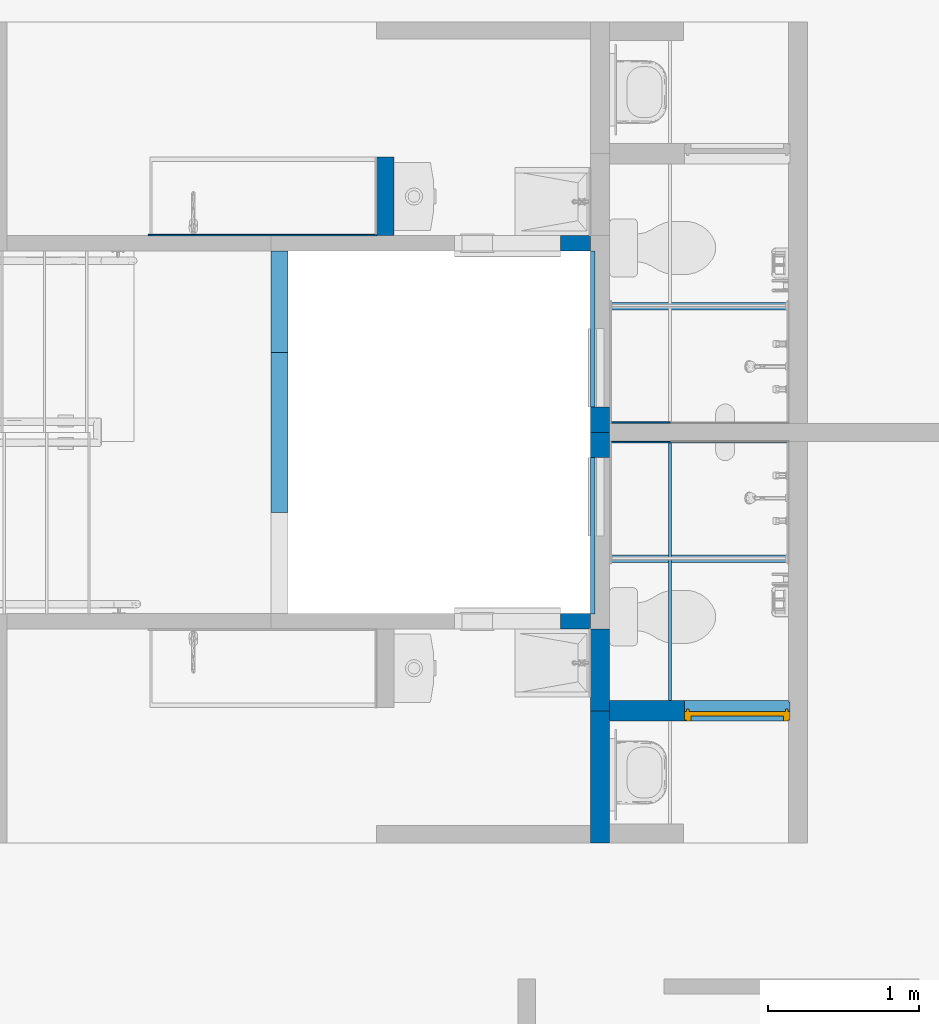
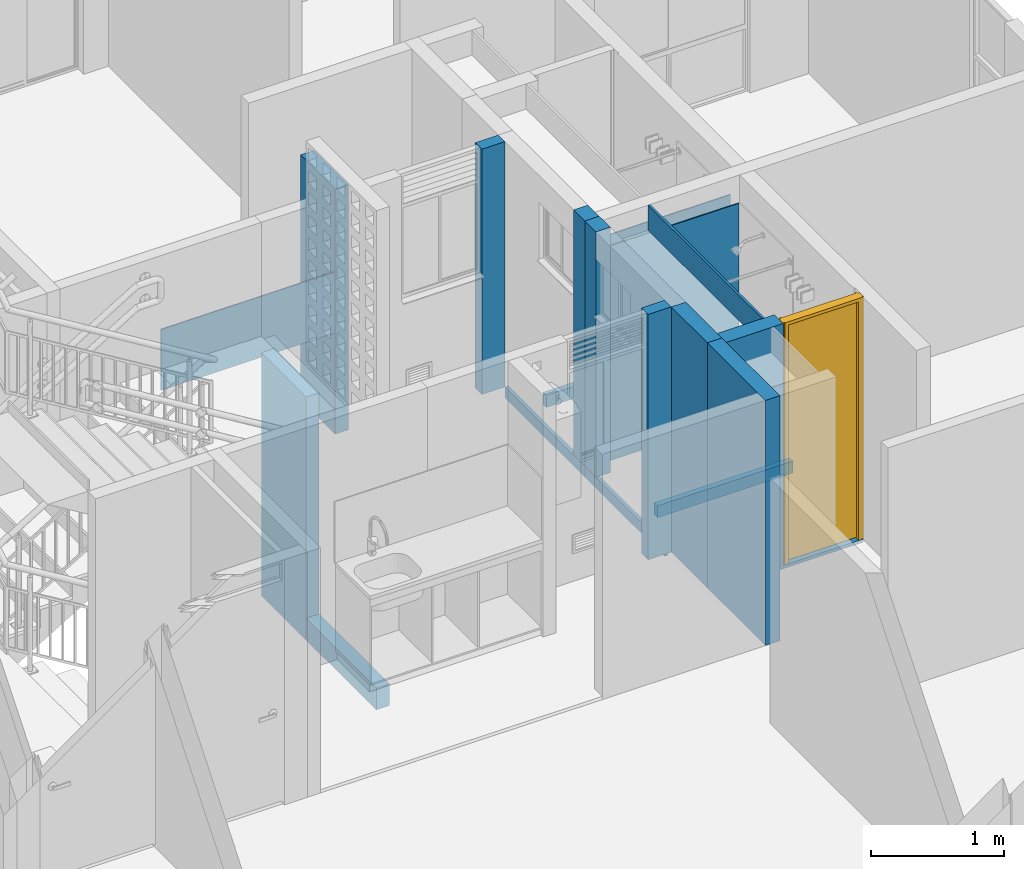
# One storey, part 16 of 51: 18 walls, 1 door, 1 opening.
"""IFC4 building model written with IfcOpenShell, lengths in metres."""

from ifc_helpers import new_model, entity, si_unit, converted_unit, derived_unit, direction, frame, origin, place, context, subcontext, project, spatial, indexed_curve, outline, extrude, polygons, source, transform, mapped, material, constituent, constituent_set, type_object, type_shapes, element, fill, save


model = new_model("IFC4")

# Units and contexts
model_context = context("Model", 3, precision=1e-05, world=origin(), true_north=direction((6.123031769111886e-17, 1.0)))
body_context = subcontext(model_context, "Body", "Model", "MODEL_VIEW")
ifc_project = project(units=[si_unit("LENGTHUNIT", "METRE"), si_unit("AREAUNIT", "SQUARE_METRE"), si_unit("VOLUMEUNIT", "CUBIC_METRE"), converted_unit("PLANEANGLEUNIT", "DEGREE", entity("IfcRatioMeasure", 0.017453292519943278), si_unit("PLANEANGLEUNIT", "RADIAN"), dimensions=[0, 0, 0, 0, 0, 0, 0]), si_unit("MASSUNIT", "GRAM", prefix="KILO"), derived_unit("MASSDENSITYUNIT", [(si_unit("MASSUNIT", "GRAM", prefix="KILO"), 1), (si_unit("LENGTHUNIT", "METRE"), -3)]), derived_unit("IONCONCENTRATIONUNIT", [(si_unit("MASSUNIT", "GRAM", prefix="KILO"), 1), (si_unit("LENGTHUNIT", "METRE"), -3)]), derived_unit("MOMENTOFINERTIAUNIT", [(si_unit("LENGTHUNIT", "METRE"), 4)]), si_unit("TIMEUNIT", "SECOND"), si_unit("FREQUENCYUNIT", "HERTZ"), si_unit("THERMODYNAMICTEMPERATUREUNIT", "DEGREE_CELSIUS"), derived_unit("THERMALTRANSMITTANCEUNIT", [(si_unit("MASSUNIT", "GRAM", prefix="KILO"), 1), (si_unit("THERMODYNAMICTEMPERATUREUNIT", "KELVIN"), -1), (si_unit("TIMEUNIT", "SECOND"), -3)]), derived_unit("THERMALCONDUCTANCEUNIT", [(si_unit("MASSUNIT", "GRAM", prefix="KILO"), 1), (si_unit("THERMODYNAMICTEMPERATUREUNIT", "KELVIN"), -1), (si_unit("TIMEUNIT", "SECOND"), -3), (si_unit("LENGTHUNIT", "METRE"), 1)]), derived_unit("VOLUMETRICFLOWRATEUNIT", [(si_unit("LENGTHUNIT", "METRE"), 3), (si_unit("TIMEUNIT", "SECOND"), -1)]), derived_unit("MASSFLOWRATEUNIT", [(si_unit("MASSUNIT", "GRAM", prefix="KILO"), 1), (si_unit("TIMEUNIT", "SECOND"), -1)]), derived_unit("ROTATIONALFREQUENCYUNIT", [(si_unit("TIMEUNIT", "SECOND"), -1)]), si_unit("ELECTRICCURRENTUNIT", "AMPERE"), si_unit("ELECTRICVOLTAGEUNIT", "VOLT"), si_unit("POWERUNIT", "WATT"), si_unit("FORCEUNIT", "NEWTON", prefix="KILO"), si_unit("ILLUMINANCEUNIT", "LUX"), si_unit("LUMINOUSFLUXUNIT", "LUMEN"), si_unit("LUMINOUSINTENSITYUNIT", "CANDELA"), derived_unit("USERDEFINED", [(si_unit("MASSUNIT", "GRAM", prefix="KILO"), -1), (si_unit("LENGTHUNIT", "METRE"), -2), (si_unit("TIMEUNIT", "SECOND"), 3), (si_unit("LUMINOUSFLUXUNIT", "LUMEN"), 1)]), derived_unit("USERDEFINED", [(si_unit("MASSUNIT", "GRAM", prefix="KILO"), 1), (si_unit("TIMEUNIT", "SECOND"), -3), (si_unit("LENGTHUNIT", "METRE"), 3), (si_unit("ELECTRICCURRENTUNIT", "AMPERE"), -2)]), derived_unit("SOUNDPOWERUNIT", [(si_unit("MASSUNIT", "GRAM", prefix="KILO"), 1), (si_unit("TIMEUNIT", "SECOND"), -3), (si_unit("LENGTHUNIT", "METRE"), 2)]), derived_unit("SOUNDPRESSUREUNIT", [(si_unit("MASSUNIT", "GRAM", prefix="KILO"), 1), (si_unit("LENGTHUNIT", "METRE"), -1), (si_unit("TIMEUNIT", "SECOND"), -2)]), derived_unit("LINEARVELOCITYUNIT", [(si_unit("LENGTHUNIT", "METRE"), 1), (si_unit("TIMEUNIT", "SECOND"), -1)]), si_unit("PRESSUREUNIT", "PASCAL"), derived_unit("USERDEFINED", [(si_unit("MASSUNIT", "GRAM", prefix="KILO"), 1), (si_unit("LENGTHUNIT", "METRE"), -2), (si_unit("TIMEUNIT", "SECOND"), -2)]), derived_unit("LINEARFORCEUNIT", [(si_unit("MASSUNIT", "GRAM", prefix="KILO"), 1), (si_unit("TIMEUNIT", "SECOND"), -2)]), derived_unit("PLANARFORCEUNIT", [(si_unit("MASSUNIT", "GRAM", prefix="KILO"), 1), (si_unit("LENGTHUNIT", "METRE"), -1), (si_unit("TIMEUNIT", "SECOND"), -2)]), derived_unit("SPECIFICHEATCAPACITYUNIT", [(si_unit("THERMODYNAMICTEMPERATUREUNIT", "KELVIN"), -1), (si_unit("LENGTHUNIT", "METRE"), 2), (si_unit("TIMEUNIT", "SECOND"), -2)]), derived_unit("HEATINGVALUEUNIT", [(si_unit("LENGTHUNIT", "METRE"), 2), (si_unit("TIMEUNIT", "SECOND"), -2)]), derived_unit("VAPORPERMEABILITYUNIT", [(si_unit("LENGTHUNIT", "METRE"), -1), (si_unit("TIMEUNIT", "SECOND"), 1)]), derived_unit("DYNAMICVISCOSITYUNIT", [(si_unit("MASSUNIT", "GRAM", prefix="KILO"), 1), (si_unit("TIMEUNIT", "SECOND"), -1), (si_unit("LENGTHUNIT", "METRE"), -1)]), derived_unit("THERMALEXPANSIONCOEFFICIENTUNIT", [(si_unit("THERMODYNAMICTEMPERATUREUNIT", "KELVIN"), -1)]), derived_unit("MODULUSOFELASTICITYUNIT", [(si_unit("MASSUNIT", "GRAM", prefix="KILO"), 1), (si_unit("LENGTHUNIT", "METRE"), -1), (si_unit("TIMEUNIT", "SECOND"), -2)]), derived_unit("ISOTHERMALMOISTURECAPACITYUNIT", [(si_unit("LENGTHUNIT", "METRE"), 3), (si_unit("MASSUNIT", "GRAM", prefix="KILO"), -1)]), derived_unit("MOISTUREDIFFUSIVITYUNIT", [(si_unit("TIMEUNIT", "SECOND"), -1), (si_unit("LENGTHUNIT", "METRE"), 2)])], contexts=[model_context])

# Site, building, storey
site_placement = place(None, origin())
site = spatial("IfcSite", under=ifc_project, at=site_placement, Name="Default", CompositionType="ELEMENT")
building_placement = place(site_placement, origin())
building = spatial("IfcBuilding", under=site, at=building_placement, CompositionType="ELEMENT")
storey_placement = place(building_placement, frame((0.0, 0.0, 2.350000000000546)))
storey = spatial("IfcBuildingStorey", under=building, at=storey_placement, Name="Nivel 2", CompositionType="ELEMENT", Elevation=2.350000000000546)

# Walls
ifc_material_1 = material(Name="Ladrillo claro (Aire)", Category="Materials")
wall_type_1 = type_object("IfcWallType", Name="Basic Wall:B2010 - 0.115m - Muro interior en mampostería - Ladrillo", PredefinedType="STANDARD")
wall_1_placement = place(storey_placement, frame((12.500000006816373, -5.897500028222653, -1.1750000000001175), z_axis=(0.0, 0.0, 1.0), x_axis=(0.0, 1.0, 0.0)))
element("IfcWall", 1, at=wall_1_placement, inside=storey, type_object=wall_type_1, material=ifc_material_1, Name="Basic Wall:B2010 - 0.115m - Muro interior en mampostería - Ladrillo", ObjectType="Basic Wall:B2010 - 0.115m - Muro interior en mampostería - Ladrillo", PredefinedType="NOTDEFINED", context=body_context, shape_type="SweptSolid", body=[
    extrude(outline(indexed_curve([(0.6719999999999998, 0.05749999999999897), (-1.0377476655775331e-16, 0.057499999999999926), (1.0377476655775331e-16, -0.057499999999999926), (0.672, -0.05750000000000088), (0.6719999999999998, 0.05749999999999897)], self_intersect=False)), origin(), (0.0, 0.0, 1.0), 2.2300000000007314),
])
wall_2_placement = place(storey_placement, frame((12.500000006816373, -6.954905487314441, -1.1750000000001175), z_axis=(0.0, 0.0, 1.0), x_axis=(0.0, 1.0, 0.0)))
element("IfcWall", 2, at=wall_2_placement, inside=storey, type_object=wall_type_1, material=ifc_material_1, Name="Basic Wall:B2010 - 0.115m - Muro interior en mampostería - Ladrillo", ObjectType="Basic Wall:B2010 - 0.115m - Muro interior en mampostería - Ladrillo", PredefinedType="NOTDEFINED", context=body_context, shape_type="SweptSolid", body=[
    extrude(outline(indexed_curve([(1.057405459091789, 0.057499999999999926), (-1.1776912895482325e-16, 0.057499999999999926), (1.1776912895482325e-16, -0.057499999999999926), (1.0574054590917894, -0.057499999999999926), (1.057405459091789, 0.057499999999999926)], self_intersect=False)), origin(), (0.0, 0.0, 1.0), 0.20000000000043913),
])

# Wall, opening, door
ifc_material_2 = material(Name="Pañete", Category="Materials")
ifc_constituent_1 = constituent(ifc_material_2, Name="Pañete", Category="Materials")
ifc_material_3 = material(Name="LADRILLO CLARO", Category="Materials")
ifc_constituent_2 = constituent(ifc_material_3, Name="LADRILLO CLARO", Category="Materials")
ifc_constituent_3 = constituent(ifc_material_2, Name="Pañete (2)", Category="Materials")
ifc_constituent_set_1 = constituent_set(constituents=[ifc_constituent_1, ifc_constituent_2, ifc_constituent_3], Name="Basic Wall:B2010 - 0.115m - MI  mampostería no estructural - Pañete + Ladrillo + Pañete")
wall_type_2 = type_object("IfcWallType", Name="Basic Wall:B2010 - 0.115m - MI  mampostería no estructural - Pañete + Ladrillo + Pañete", PredefinedType="STANDARD", material=ifc_constituent_set_1)
wall_3_placement = place(storey_placement, frame((14.68250000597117, -8.267499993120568, 0.0)))
wall_3 = element("IfcWall", 3, at=wall_3_placement, inside=storey, type_object=wall_type_2, material=ifc_constituent_set_1, Name="Basic Wall:B2010 - 0.115m - MI  mampostería no estructural - Pañete + Ladrillo + Pañete", ObjectType="Basic Wall:B2010 - 0.115m - MI  mampostería no estructural - Pañete + Ladrillo + Pañete", PredefinedType="NOTDEFINED", context=body_context, shape_type="SweptSolid", body=[
    extrude(outline(indexed_curve([(-0.7600000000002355, -0.5599992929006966), (1.4900000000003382, -0.5599992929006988), (1.4900000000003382, -0.06500035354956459), (-0.7300000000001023, -0.06500035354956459), (-0.7300000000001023, 0.6249996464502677), (-0.7600000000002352, 0.6249996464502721), (-0.7600000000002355, -0.5599992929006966)], self_intersect=False)), frame((0.5599992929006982, 0.05750000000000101, 0.7600000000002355), z_axis=(0.0, 1.0, 0.0), x_axis=(0.0, 0.0, 1.0)), (0.0, 0.0, 1.0), 0.009999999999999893),
    extrude(outline(indexed_curve([(-1.1325000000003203, -0.5199994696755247), (1.1175000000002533, -0.5199994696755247), (1.1175000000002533, -0.12999946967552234), (1.1175000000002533, -0.10999946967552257), (1.1175000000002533, -0.025000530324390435), (-1.1025000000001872, -0.025000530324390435), (-1.1025000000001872, 0.6649994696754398), (-1.13250000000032, 0.6649994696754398), (-1.1325000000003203, -0.5199994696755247)], self_intersect=False)), frame((0.5199994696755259, -0.06749999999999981, 1.1325000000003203), z_axis=(0.0, 1.0, 0.0), x_axis=(0.0, 0.0, 1.0)), (0.0, 0.0, 1.0), 0.009999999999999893),
    extrude(outline(indexed_curve([(-0.7600000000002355, -0.5633326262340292), (1.4900000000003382, -0.5633326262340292), (1.4900000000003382, -0.068333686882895), (-0.7300000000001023, -0.068333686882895), (-0.7300000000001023, 0.631666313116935), (-0.7600000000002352, 0.631666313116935), (-0.7600000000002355, -0.5633326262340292)], self_intersect=False)), frame((0.5633326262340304, -0.05750000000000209, 0.7600000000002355), z_axis=(0.0, 1.0, 0.0), x_axis=(0.0, 0.0, 1.0)), (0.0, 0.0, 1.0), 0.11499999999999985),
])
opening_placement = place(wall_3_placement, frame((0.49499893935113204, -0.06749999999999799, 0.030000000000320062)))
opening = element("IfcOpeningElement", 4, at=opening_placement, cuts=wall_3, Name="C1030 - Puerta batiente - Madera+Aluminio:C1030 - 0.70 x 2.22 - Puerta batiente - Madera+ Metal:1", PredefinedType="OPENING", context=body_context, shape_type="SweptSolid", body=[
    extrude(outline(indexed_curve([(-2.8961849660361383e-19, 1.218225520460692e-15), (2.2199999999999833, 1.218225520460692e-15), (2.2199999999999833, 0.7000000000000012), (1.438182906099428e-16, 0.7000000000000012), (-2.8961849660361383e-19, 1.218225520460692e-15)], self_intersect=False)), frame((0.0, 0.0, 0.0), z_axis=(0.0, 1.0, 0.0), x_axis=(0.0, 0.0, 1.0)), (0.0, 0.0, 1.0), 0.13499999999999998),
])
ifc_material_4 = material(Name="<Unnamed>")
door_type = type_object("IfcDoorType", Name="C1030 - Puerta batiente - Madera+Aluminio:C1030 - 0.70 x 2.22 - Puerta batiente - Madera+ Metal", OperationType="SINGLE_SWING_RIGHT", PredefinedType="DOOR", material=ifc_material_4)
shared_shape = source(origin(), body_context, "Body", "Tessellation", [
    polygons([(0.030000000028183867, 0.06499999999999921, 0.009880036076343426), (0.6699999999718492, 0.06499999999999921, 0.009880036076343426), (0.6699999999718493, 0.0324999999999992, 0.009880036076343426), (0.030000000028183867, 0.0324999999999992, 0.009880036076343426), (0.030000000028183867, 0.06499999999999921, 2.2050000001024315), (0.030000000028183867, 0.0324999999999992, 2.2050000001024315), (0.6699999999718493, 0.0324999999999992, 2.2050000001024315), (0.6699999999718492, 0.06499999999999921, 2.2050000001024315)], [[[1, 2, 3, 4]], [[5, 1, 4, 6]], [[6, 4, 3, 7]], [[7, 3, 2, 8]], [[8, 2, 1, 5]], [[5, 6, 7, 8]]], closed=True),
    polygons([(0.015000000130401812, 0.0649999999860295, 0.0), (0.015000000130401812, 0.07999999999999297, 0.0), (0.030000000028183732, 0.07999999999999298, 0.0), (0.030000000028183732, 0.04000000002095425, 0.0), (0.045000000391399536, 0.04000000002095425, 0.0), (0.045000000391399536, -1.6919798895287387e-17, 0.0), (0.015000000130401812, -5.075939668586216e-17, 0.0), (0.015000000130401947, 0.007499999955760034, 0.0), (1.651372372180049e-14, 0.0074999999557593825, 0.0), (1.651372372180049e-14, 0.0649999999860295, 0.0), (1.651372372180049e-14, 0.0074999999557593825, 2.2199999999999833), (0.015000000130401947, 0.007499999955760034, 2.2199999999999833), (0.015000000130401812, 0.0649999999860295, 2.2199999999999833), (1.651372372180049e-14, 0.0649999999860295, 2.2199999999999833), (0.6849999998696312, 0.06499999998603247, 0.0), (0.7000000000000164, 0.06499999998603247, 0.0), (0.7000000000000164, 0.007499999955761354, 0.0), (0.6849999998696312, 0.007499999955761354, 0.0), (0.6849999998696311, 0.0, 0.0), (0.6549999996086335, 0.0, 0.0), (0.6549999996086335, 0.04000000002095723, 0.0), (0.6699999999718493, 0.04000000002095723, 0.0), (0.6699999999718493, 0.07999999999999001, 0.0), (0.6849999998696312, 0.07999999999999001, 0.0), (0.7000000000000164, 0.06499999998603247, 2.2199999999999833), (0.6849999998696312, 0.06499999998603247, 2.2199999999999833), (0.6849999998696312, 0.007499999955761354, 2.2199999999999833), (0.7000000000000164, 0.007499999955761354, 2.2199999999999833), (0.6549999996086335, 0.0, 2.189999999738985), (0.6549999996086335, 0.03250000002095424, 2.189999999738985), (0.6549999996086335, 0.03250000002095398, 2.2050000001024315), (0.6549999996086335, 0.04000000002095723, 2.2050000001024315), (0.045000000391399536, 0.04000000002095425, 2.2050000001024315), (0.045000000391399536, 0.03250000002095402, 2.2050000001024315), (0.045000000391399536, 0.032500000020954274, 2.189999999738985), (0.045000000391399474, -1.6919798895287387e-17, 2.189999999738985), (0.6699999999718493, 0.04000000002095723, 2.2050000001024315), (0.6699999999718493, 0.07249999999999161, 2.2050000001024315), (0.6699999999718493, 0.07249999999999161, 2.2199999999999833), (0.6699999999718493, 0.07999999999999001, 2.2199999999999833), (0.030000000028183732, 0.07999999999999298, 2.2199999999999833), (0.030000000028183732, 0.07249999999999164, 2.2199999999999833), (0.030000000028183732, 0.07249999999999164, 2.2050000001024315), (0.030000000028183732, 0.04000000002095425, 2.2050000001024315), (0.6849999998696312, 0.07999999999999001, 2.2199999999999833), (0.6849999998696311, 0.0, 2.2199999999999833), (0.015000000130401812, -5.075939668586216e-17, 2.2199999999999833), (0.015000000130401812, 0.07999999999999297, 2.2199999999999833)], [[[1, 2, 3, 4, 5, 6, 7, 8, 9, 10]], [[11, 9, 8, 12]], [[13, 1, 10, 14]], [[15, 16, 17, 18, 19, 20, 21, 22, 23, 24]], [[25, 16, 15, 26]], [[27, 18, 17, 28]], [[20, 29, 30, 31, 32, 21]], [[5, 33, 34, 35, 36, 6]], [[22, 37, 38, 39, 40, 23]], [[3, 41, 42, 43, 44, 4]], [[28, 17, 16, 25]], [[14, 10, 9, 11]], [[26, 15, 24, 45]], [[45, 24, 23, 40]], [[21, 32, 37, 22]], [[19, 46, 47, 7, 6, 36, 29, 20]], [[46, 19, 18, 27]], [[12, 8, 7, 47]], [[48, 2, 1, 13]], [[26, 45, 40, 39, 42, 41, 48, 13, 14, 11, 12, 47, 46, 27, 28, 25]], [[38, 37, 32, 31, 34, 33, 44, 43]], [[36, 35, 30, 29]], [[4, 44, 33, 5]], [[41, 3, 2, 48]], [[35, 34, 31, 30]], [[43, 42, 39, 38]]], closed=True),
])
type_shapes(door_type, [shared_shape])
door_placement = place(opening_placement, origin())
door = element("IfcDoor", 5, at=door_placement, inside=storey, type_object=door_type, material=ifc_material_4, Name="C1030 - Puerta batiente - Madera+Aluminio:C1030 - 0.70 x 2.22 - Puerta batiente - Madera+ Metal", ObjectType="C1030 - Puerta batiente - Madera+Aluminio:C1030 - 0.70 x 2.22 - Puerta batiente - Madera+ Metal", OperationType="SINGLE_SWING_RIGHT", OverallHeight=2.2199999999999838, OverallWidth=0.7000000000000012, PredefinedType="DOOR", context=body_context, shape_type="MappedRepresentation", body=[
    mapped(shared_shape, transform((0.0, 0.0, 0.0), scale=1.0)),
])
fill(opening, door)

# Walls
ifc_material_5 = material(Name="PINTURA BLANCA PARA EXTERIORES", Category="Materials")
ifc_constituent_4 = constituent(ifc_material_5, Name="PINTURA BLANCA PARA EXTERIORES", Category="Materials")
ifc_material_6 = material(Name="Concreto - Fundido in situ", Category="Materials")
ifc_constituent_5 = constituent(ifc_material_6, Name="Concreto - Fundido in situ", Category="Materials")
ifc_constituent_set_2 = constituent_set(constituents=[ifc_constituent_4, ifc_constituent_5], Name="Basic Wall:B2010 - 0.10m - MI no estructural- Concreto + repello+ pintura blanca")
wall_type_3 = type_object("IfcWallType", Name="Basic Wall:B2010 - 0.10m - MI no estructural- Concreto + repello+ pintura blanca", PredefinedType="STANDARD", material=ifc_constituent_set_2)
wall_4_placement = place(storey_placement, frame((14.557500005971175, -5.175000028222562, 0.0), z_axis=(0.0, 0.0, 1.0), x_axis=(-1.0, 0.0, 0.0)))
element("IfcWall", 6, at=wall_4_placement, inside=storey, type_object=wall_type_3, material=ifc_constituent_set_2, Name="Basic Wall:B2010 - 0.10m - MI no estructural- Concreto + repello+ pintura blanca", ObjectType="Basic Wall:B2010 - 0.10m - MI no estructural- Concreto + repello+ pintura blanca", PredefinedType="NOTDEFINED", context=body_context, shape_type="SweptSolid", body=[
    extrude(outline(indexed_curve([(-0.000500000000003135, -0.10000000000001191), (0.0004999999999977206, -0.10000000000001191), (0.0005000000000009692, 0.10000000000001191), (-0.0004999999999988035, 0.10000000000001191), (-0.000500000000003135, -0.10000000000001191)], self_intersect=False)), frame((0.10000000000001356, 0.04999999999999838, 0.0), z_axis=(0.0, 0.0, 1.0), x_axis=(0.0, -1.0, 0.0)), (0.0, 0.0, 1.0), 2.249999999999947),
    extrude(outline(indexed_curve([(-0.04999999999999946, -0.10000000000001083), (0.050000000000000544, -0.10000000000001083), (0.04999999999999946, 0.10000000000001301), (-0.04999999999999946, 0.10000000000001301), (-0.04999999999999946, -0.10000000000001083)], self_intersect=False)), frame((0.10000000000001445, -0.0005000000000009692, 0.0), z_axis=(0.0, 0.0, 1.0), x_axis=(0.0, 1.0, 0.0)), (0.0, 0.0, 1.0), 2.249999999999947),
])
wall_5_placement = place(storey_placement, frame((14.557500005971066, -7.675000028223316, 0.0), z_axis=(0.0, 0.0, 1.0), x_axis=(-1.0, 0.0, 0.0)))
element("IfcWall", 7, at=wall_5_placement, inside=storey, type_object=wall_type_3, material=ifc_constituent_set_2, Name="Basic Wall:B2010 - 0.10m - MI no estructural- Concreto + repello+ pintura blanca", ObjectType="Basic Wall:B2010 - 0.10m - MI no estructural- Concreto + repello+ pintura blanca", PredefinedType="NOTDEFINED", context=body_context, shape_type="SweptSolid", body=[
    extrude(outline(indexed_curve([(-0.0004999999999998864, -0.10000000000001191), (0.0004999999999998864, -0.10000000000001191), (0.0004999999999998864, 0.10000000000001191), (-0.0004999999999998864, 0.10000000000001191), (-0.0004999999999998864, -0.10000000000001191)], self_intersect=False)), frame((0.10000000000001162, -0.04999999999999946, 0.0), z_axis=(0.0, 0.0, 1.0), x_axis=(0.0, 1.0, 0.0)), (0.0, 0.0, 1.0), 2.249999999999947),
    extrude(outline(indexed_curve([(-0.04999999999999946, -0.10000000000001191), (0.050000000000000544, -0.10000000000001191), (0.050000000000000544, 0.10000000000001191), (-0.04999999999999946, 0.10000000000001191), (-0.04999999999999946, -0.10000000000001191)], self_intersect=False)), frame((0.10000000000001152, 0.0005000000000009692, 0.0), z_axis=(0.0, 0.0, 1.0), x_axis=(0.0, -1.0, 0.0)), (0.0, 0.0, 1.0), 2.249999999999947),
])
wall_type_4 = type_object("IfcWallType", Name="Basic Wall:B2010 - 0.115m - MI mampostería no estructural - Ladrillo", PredefinedType="STANDARD")
wall_6_placement = place(storey_placement, frame((13.200000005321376, -4.605000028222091, 0.0), z_axis=(0.0, 0.0, 1.0), x_axis=(0.0, -1.0, 0.0)))
element("IfcWall", 8, at=wall_6_placement, inside=storey, type_object=wall_type_4, material=ifc_material_3, Name="Basic Wall:B2010 - 0.115m - MI mampostería no estructural - Ladrillo", ObjectType="Basic Wall:B2010 - 0.115m - MI mampostería no estructural - Ladrillo", PredefinedType="NOTDEFINED", context=body_context, shape_type="SweptSolid", body=[
    extrude(outline(indexed_curve([(0.5195000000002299, 0.0574999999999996), (-2.0425946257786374e-16, 0.057499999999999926), (2.0425946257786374e-16, -0.057499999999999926), (0.5195000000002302, -0.057500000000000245), (0.5195000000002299, 0.0574999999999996)], self_intersect=False)), origin(), (0.0, 0.0, 1.0), 2.2500000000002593),
])
ifc_material_7 = material(Name="Pañete, estuco y pintura", Category="Materials")
ifc_constituent_6 = constituent(ifc_material_7, Name="Pañete, estuco y pintura", Category="Materials")
ifc_constituent_7 = constituent(ifc_material_1, Name="Ladrillo claro (Aire)", Category="Materials")
ifc_constituent_set_3 = constituent_set(constituents=[ifc_constituent_6, ifc_constituent_7], Name="Basic Wall:B2010 - 0.115m - Muro interior en mampostería - Ladrillo + Pañete+ estuco+ pintura")
wall_type_5 = type_object("IfcWallType", Name="Basic Wall:B2010 - 0.115m - Muro interior en mampostería - Ladrillo + Pañete+ estuco+ pintura", PredefinedType="STANDARD", material=ifc_constituent_set_3)
wall_7_placement = place(storey_placement, frame((14.620000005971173, -9.139999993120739, 0.0), z_axis=(0.0, 0.0, 1.0), x_axis=(0.0, 1.0, 0.0)))
element("IfcWall", 9, at=wall_7_placement, inside=storey, type_object=wall_type_5, material=ifc_constituent_set_3, Name="Basic Wall:B2010 - 0.115m - Muro interior en mampostería - Ladrillo + Pañete+ estuco+ pintura", ObjectType="Basic Wall:B2010 - 0.115m - Muro interior en mampostería - Ladrillo + Pañete+ estuco+ pintura", PredefinedType="NOTDEFINED", context=body_context, shape_type="SweptSolid", body=[
    extrude(outline(indexed_curve([(-0.32083333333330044, -0.003333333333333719), (0.35916666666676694, -0.003333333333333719), (0.4266666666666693, -0.0033333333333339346), (0.4266666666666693, 0.006666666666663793), (-0.44583333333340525, 0.006666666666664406), (-0.44583333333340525, -0.003333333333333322), (-0.32083333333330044, -0.003333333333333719)], self_intersect=False)), frame((0.44583333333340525, -0.059166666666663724, 0.0)), (0.0, 0.0, 1.0), 2.2499999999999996),
    extrude(outline(indexed_curve([(0.2570000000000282, -0.046000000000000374), (0.37200000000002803, -0.046000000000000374), (0.37200000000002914, 0.06900000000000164), (-0.5005000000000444, 0.06899999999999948), (-0.5005000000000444, -0.04600000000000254), (0.2570000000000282, -0.046000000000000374)], self_intersect=False)), frame((0.3720000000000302, 0.016500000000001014, 0.0), z_axis=(0.0, 0.0, 1.0), x_axis=(-1.0, 0.0, 0.0)), (0.0, 0.0, 1.0), 2.2499999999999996),
])
wall_8_placement = place(storey_placement, frame((14.620000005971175, -8.26749999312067, 0.0), z_axis=(0.0, 0.0, 1.0), x_axis=(0.0, 1.0, 0.0)))
element("IfcWall", 10, at=wall_8_placement, inside=storey, type_object=wall_type_5, material=ifc_constituent_set_3, Name="Basic Wall:B2010 - 0.115m - Muro interior en mampostería - Ladrillo + Pañete+ estuco+ pintura", ObjectType="Basic Wall:B2010 - 0.115m - Muro interior en mampostería - Ladrillo + Pañete+ estuco+ pintura", PredefinedType="NOTDEFINED", context=body_context, shape_type="SweptSolid", body=[
    extrude(outline(indexed_curve([(-0.16280569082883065, -0.003999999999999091), (0.3117085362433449, -0.003999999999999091), (0.3117085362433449, 0.005999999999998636), (-0.23030569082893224, 0.005999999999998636), (-0.23030569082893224, -0.003999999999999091), (-0.16280569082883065, -0.003999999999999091)], self_intersect=False)), frame((0.23030569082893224, -0.05850000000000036, 0.0)), (0.0, 0.0, 1.0), 2.2499999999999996),
    extrude(outline(indexed_curve([(0.09067143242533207, -0.03833333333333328), (0.12467143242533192, -0.03833333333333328), (0.21717139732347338, -0.03833333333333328), (0.21717139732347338, 0.07666666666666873), (-0.32484282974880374, 0.07666666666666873), (-0.32484282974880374, -0.03833333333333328), (0.09067143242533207, -0.03833333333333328)], self_intersect=False)), frame((0.21717139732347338, 0.024166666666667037, 0.0), z_axis=(0.0, 0.0, 1.0), x_axis=(-1.0, 0.0, 0.0)), (0.0, 0.0, 1.0), 2.2499999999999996),
])
ifc_material_8 = material(Name="Ceramica 0.25m x 0.35m", Category="Materials")
wall_type_6 = type_object("IfcWallType", Name="Basic Wall:C2010 - 0.25 x 0.35 - Enchape cerámico", PredefinedType="STANDARD")
wall_9_placement = place(storey_placement, frame((15.857498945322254, -6.360000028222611, 0.03000000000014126), z_axis=(0.0, 0.0, 1.0), x_axis=(-1.0, 0.0, 0.0)))
element("IfcWall", 11, at=wall_9_placement, inside=storey, type_object=wall_type_6, material=ifc_material_8, Name="Basic Wall:C2010 - 0.25 x 0.35 - Enchape cerámico", ObjectType="Basic Wall:C2010 - 0.25 x 0.35 - Enchape cerámico", PredefinedType="NOTDEFINED", context=body_context, shape_type="SweptSolid", body=[
    extrude(outline(indexed_curve([(1.1649989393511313, 0.004999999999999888), (-9.047226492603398e-18, 0.004999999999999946), (9.047226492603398e-18, -0.004999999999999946), (1.1649989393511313, -0.0050000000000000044), (1.1649989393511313, 0.004999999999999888)], self_intersect=False)), origin(), (0.0, 0.0, 1.0), 1.9700000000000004),
])
wall_10_placement = place(storey_placement, frame((15.857498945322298, -6.490000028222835, 0.03000000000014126), z_axis=(0.0, 0.0, 1.0), x_axis=(-1.0, 0.0, 0.0)))
element("IfcWall", 12, at=wall_10_placement, inside=storey, type_object=wall_type_6, material=ifc_material_8, Name="Basic Wall:C2010 - 0.25 x 0.35 - Enchape cerámico", ObjectType="Basic Wall:C2010 - 0.25 x 0.35 - Enchape cerámico", PredefinedType="NOTDEFINED", context=body_context, shape_type="SweptSolid", body=[
    extrude(outline(indexed_curve([(1.1649989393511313, 0.0050000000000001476), (8.43490309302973e-18, 0.004999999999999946), (-8.43490309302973e-18, -0.004999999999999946), (1.1649989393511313, -0.004999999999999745), (1.1649989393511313, 0.0050000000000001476)], self_intersect=False)), origin(), (0.0, 0.0, 1.0), 1.9700000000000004),
])
ifc_material_9 = material(Name="0 muro divisorio", Category="Materials")
wall_type_7 = type_object("IfcWallType", Name="Basic Wall:B2010 - 0.05m - Poyo para duchas - Concreto", PredefinedType="STANDARD")
wall_11_placement = place(storey_placement, frame((15.867498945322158, -5.5900000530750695, 0.0), z_axis=(0.0, 0.0, 1.0), x_axis=(-1.0, 0.0, 0.0)))
element("IfcWall", 13, at=wall_11_placement, inside=storey, type_object=wall_type_7, material=ifc_material_9, Name="Basic Wall:B2010 - 0.05m - Poyo para duchas - Concreto", ObjectType="Basic Wall:B2010 - 0.05m - Poyo para duchas - Concreto", PredefinedType="NOTDEFINED", context=body_context, shape_type="SweptSolid", body=[
    extrude(outline(indexed_curve([(1.1749989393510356, 0.02499999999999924), (-2.430407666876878e-16, 0.02499999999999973), (2.430407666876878e-16, -0.02499999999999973), (1.1749989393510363, -0.025000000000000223), (1.1749989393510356, 0.02499999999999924)], self_intersect=False)), origin(), (0.0, 0.0, 1.0), 0.11000000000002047),
])
wall_12_placement = place(storey_placement, frame((15.86749894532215, -7.260000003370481, 0.0), z_axis=(0.0, 0.0, 1.0), x_axis=(-1.0, 0.0, 0.0)))
element("IfcWall", 14, at=wall_12_placement, inside=storey, type_object=wall_type_7, material=ifc_material_9, Name="Basic Wall:B2010 - 0.05m - Poyo para duchas - Concreto", ObjectType="Basic Wall:B2010 - 0.05m - Poyo para duchas - Concreto", PredefinedType="NOTDEFINED", context=body_context, shape_type="SweptSolid", body=[
    extrude(outline(indexed_curve([(1.174998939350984, 0.024999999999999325), (7.772420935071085e-17, 0.02499999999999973), (-7.772420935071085e-17, -0.02499999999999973), (1.1749989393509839, -0.025000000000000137), (1.174998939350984, 0.024999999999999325)], self_intersect=False)), origin(), (0.0, 0.0, 1.0), 0.11000000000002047),
])
ifc_material_10 = material(Name="Plasterboard", Category="Materials")
wall_type_8 = type_object("IfcWallType", Name="Basic Wall:C1070 - 0.02m - Plafón - Drywall", PredefinedType="STANDARD")
wall_13_placement = place(storey_placement, frame((15.082500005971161, -6.485000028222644, 2.0200000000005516), z_axis=(0.0, 0.0, 1.0), x_axis=(0.0, -1.0, 0.0)))
element("IfcWall", 15, at=wall_13_placement, inside=storey, type_object=wall_type_8, material=ifc_material_10, Name="Basic Wall:C1070 - 0.02m - Plafón - Drywall", ObjectType="Basic Wall:C1070 - 0.02m - Plafón - Drywall", PredefinedType="NOTDEFINED", context=body_context, shape_type="SweptSolid", body=[
    extrude(outline(indexed_curve([(1.714999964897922, 0.009999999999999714), (1.366511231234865e-17, 0.009999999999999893), (-1.366511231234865e-17, -0.009999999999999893), (1.714999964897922, -0.01000000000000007), (1.714999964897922, 0.009999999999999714)], self_intersect=False)), origin(), (0.0, 0.0, 1.0), 0.23000000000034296),
])
ifc_material_11 = material(Name="Ceramica Salpicadero 0.28m x 0.45m", Category="Materials")
wall_type_9 = type_object("IfcWallType", Name="Basic Wall:C2010 - 0.28 x 0.45 - Salpicadero - Cerámica", PredefinedType="STANDARD")
wall_14_placement = place(storey_placement, frame((13.142500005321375, -5.120000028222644, 0.9300000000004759), z_axis=(0.0, 0.0, 1.0), x_axis=(-1.0, 0.0, 0.0)))
element("IfcWall", 16, at=wall_14_placement, inside=storey, type_object=wall_type_9, material=ifc_material_11, Name="Basic Wall:C2010 - 0.28 x 0.45 - Salpicadero - Cerámica", ObjectType="Basic Wall:C2010 - 0.28 x 0.45 - Salpicadero - Cerámica", PredefinedType="NOTDEFINED", context=body_context, shape_type="SweptSolid", body=[
    extrude(outline(indexed_curve([(1.5100000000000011, 0.004999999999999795), (1.8429308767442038e-17, 0.004999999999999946), (-1.8429308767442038e-17, -0.004999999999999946), (1.5100000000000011, -0.005000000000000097), (1.5100000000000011, 0.004999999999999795)], self_intersect=False)), origin(), (0.0, 0.0, 1.0), 0.5599999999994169),
])
ifc_constituent_8 = constituent(ifc_material_2, Name="Pañete", Category="Materials")
ifc_constituent_9 = constituent(ifc_material_3, Name="LADRILLO CLARO", Category="Materials")
ifc_constituent_set_4 = constituent_set(constituents=[ifc_constituent_8, ifc_constituent_9], Name="Basic Wall:B2010 - 0.115m - MI  mampostería no estructural - Ladrillo + Pañete")
wall_type_10 = type_object("IfcWallType", Name="Basic Wall:B2010 - 0.115m - MI  mampostería no estructural - Ladrillo + Pañete", PredefinedType="STANDARD", material=ifc_constituent_set_4)
wall_15_placement = place(storey_placement, frame((14.620000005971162, -6.257812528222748, 0.0), z_axis=(0.0, 0.0, 1.0), x_axis=(0.0, -1.0, 0.0)))
element("IfcWall", 17, at=wall_15_placement, inside=storey, type_object=wall_type_10, material=ifc_constituent_set_4, Name="Basic Wall:B2010 - 0.115m - MI  mampostería no estructural - Ladrillo + Pañete", ObjectType="Basic Wall:B2010 - 0.115m - MI  mampostería no estructural - Ladrillo + Pañete", PredefinedType="NOTDEFINED", context=body_context, shape_type="SweptSolid", body=[
    extrude(outline(indexed_curve([(-0.005000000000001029, -0.08359375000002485), (0.004999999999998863, -0.08359375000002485), (0.005000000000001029, 0.08359375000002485), (-0.004999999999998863, 0.08359375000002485), (-0.005000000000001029, -0.08359375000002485)], self_intersect=False)), frame((0.08359375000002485, 0.05750000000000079, 0.0), z_axis=(0.0, 0.0, 1.0), x_axis=(0.0, -1.0, 0.0)), (0.0, 0.0, 1.0), 2.2500000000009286),
    extrude(outline(indexed_curve([(-0.0575000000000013, -0.08359375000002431), (0.057499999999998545, -0.08359375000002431), (0.057499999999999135, 0.08359375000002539), (-0.05750000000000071, 0.08359375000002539), (-0.0575000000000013, -0.08359375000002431)], self_intersect=False)), frame((0.08359375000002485, -0.004999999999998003, 0.0), z_axis=(0.0, 0.0, 1.0), x_axis=(0.0, 1.0, 0.0)), (0.0, 0.0, 1.0), 2.2500000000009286),
])
wall_16_placement = place(storey_placement, frame((14.620000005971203, -6.592187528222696, 0.0), z_axis=(0.0, 0.0, 1.0), x_axis=(0.0, 1.0, 0.0)))
element("IfcWall", 18, at=wall_16_placement, inside=storey, type_object=wall_type_10, material=ifc_constituent_set_4, Name="Basic Wall:B2010 - 0.115m - MI  mampostería no estructural - Ladrillo + Pañete", ObjectType="Basic Wall:B2010 - 0.115m - MI  mampostería no estructural - Ladrillo + Pañete", PredefinedType="NOTDEFINED", context=body_context, shape_type="SweptSolid", body=[
    extrude(outline(indexed_curve([(-0.004999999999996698, -0.08359375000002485), (0.005000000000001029, -0.08359375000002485), (0.004999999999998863, 0.08359375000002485), (-0.004999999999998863, 0.08359375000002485), (-0.004999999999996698, -0.08359375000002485)], self_intersect=False)), frame((0.08359375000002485, -0.057500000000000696, 0.0), z_axis=(0.0, 0.0, 1.0), x_axis=(0.0, 1.0, 0.0)), (0.0, 0.0, 1.0), 2.2500000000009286),
    extrude(outline(indexed_curve([(-0.05750000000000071, -0.08359375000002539), (0.0575000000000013, -0.08359375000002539), (0.05750000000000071, 0.08359375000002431), (-0.0575000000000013, 0.08359375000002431), (-0.05750000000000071, -0.08359375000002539)], self_intersect=False)), frame((0.08359375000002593, 0.005000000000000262, 0.0), z_axis=(0.0, 0.0, 1.0), x_axis=(0.0, -1.0, 0.0)), (0.0, 0.0, 1.0), 2.2500000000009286),
])
wall_type_11 = type_object("IfcWallType", Name="Basic Wall:B2010 - 0.03m - ME enchape  no estructural - Ladrillo", PredefinedType="STANDARD")
wall_17_placement = place(storey_placement, frame((14.57250000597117, -5.2250000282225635, -0.09999999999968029), z_axis=(0.0, 0.0, 1.0), x_axis=(0.0, -1.0, 0.0)))
element("IfcWall", 19, at=wall_17_placement, inside=storey, type_object=wall_type_11, material=ifc_material_3, Name="Basic Wall:B2010 - 0.03m - ME enchape  no estructural - Ladrillo", ObjectType="Basic Wall:B2010 - 0.03m - ME enchape  no estructural - Ladrillo", PredefinedType="NOTDEFINED", context=body_context, shape_type="SweptSolid", body=[
    extrude(outline(indexed_curve([(1.2000000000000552, 0.015000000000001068), (-2.890864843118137e-17, 0.015000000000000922), (2.890864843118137e-17, -0.015000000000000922), (1.2000000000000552, -0.015000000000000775), (1.2000000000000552, 0.015000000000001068)], self_intersect=False)), origin(), (0.0, 0.0, 1.0), 0.1),
])
wall_18_placement = place(storey_placement, frame((14.572500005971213, -7.625000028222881, -0.09999999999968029), z_axis=(0.0, 0.0, 1.0), x_axis=(0.0, 1.0, 0.0)))
element("IfcWall", 20, at=wall_18_placement, inside=storey, type_object=wall_type_11, material=ifc_material_3, Name="Basic Wall:B2010 - 0.03m - ME enchape  no estructural - Ladrillo", ObjectType="Basic Wall:B2010 - 0.03m - ME enchape  no estructural - Ladrillo", PredefinedType="NOTDEFINED", context=body_context, shape_type="SweptSolid", body=[
    extrude(outline(indexed_curve([(1.2000000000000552, 0.015000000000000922), (2.7071678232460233e-17, 0.015000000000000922), (-2.7071678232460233e-17, -0.015000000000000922), (1.2000000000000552, -0.015000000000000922), (1.2000000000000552, 0.015000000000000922)], self_intersect=False)), origin(), (0.0, 0.0, 1.0), 0.1),
])

save(model, "model.ifc")
